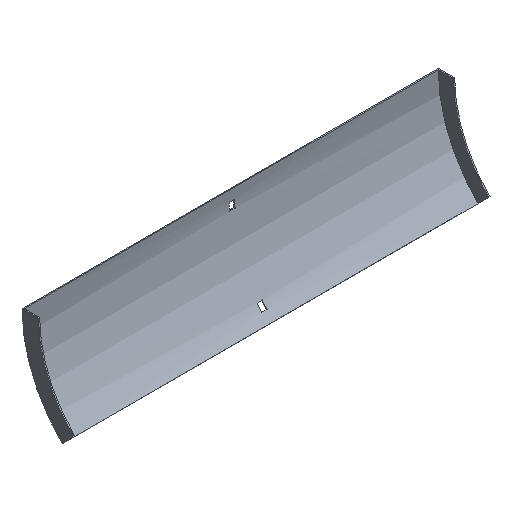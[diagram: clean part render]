
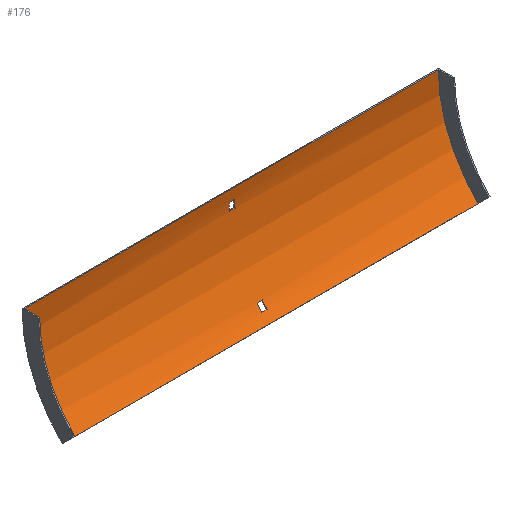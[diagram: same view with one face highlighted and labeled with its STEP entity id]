
A CAD part, isometric view. The second image highlights one B-rep face of the part: STEP entity #176.
In plain terms, the highlighted cylindrical face has radius 165.5 mm (diameter 331 mm), a partial arc.
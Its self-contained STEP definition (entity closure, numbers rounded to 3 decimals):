
#3 = DIRECTION ( 'NONE',  ( 1., 0., 0. ) ) ;
#5 = CARTESIAN_POINT ( 'NONE',  ( 3.25, -41.797, -108.233 ) ) ;
#16 = CARTESIAN_POINT ( 'NONE',  ( -252., -49.974, -117.026 ) ) ;
#29 = DIRECTION ( 'NONE',  ( -1., 0., 0. ) ) ;
#33 = AXIS2_PLACEMENT_3D ( 'NONE', #188, #519, #92 ) ;
#35 = EDGE_LOOP ( 'NONE', ( #363, #336, #37, #184 ) ) ;
#37 = ORIENTED_EDGE ( 'NONE', *, *, #406, .F. ) ;
#38 = EDGE_CURVE ( 'NONE', #319, #559, #348, .T. ) ;
#39 = LINE ( 'NONE', #274, #159 ) ;
#40 = CARTESIAN_POINT ( 'NONE',  ( -3.25, -2.838, -21. ) ) ;
#41 = ORIENTED_EDGE ( 'NONE', *, *, #568, .T. ) ;
#58 = EDGE_LOOP ( 'NONE', ( #220, #281, #398, #62 ) ) ;
#59 = EDGE_CURVE ( 'NONE', #395, #293, #39, .T. ) ;
#62 = ORIENTED_EDGE ( 'NONE', *, *, #429, .T. ) ;
#74 = AXIS2_PLACEMENT_3D ( 'NONE', #327, #572, #201 ) ;
#75 = DIRECTION ( 'NONE',  ( 0., 0., 1. ) ) ;
#80 = CIRCLE ( 'NONE', #121, 165.5 ) ;
#85 = DIRECTION ( 'NONE',  ( -1., 0., 0. ) ) ;
#88 = EDGE_CURVE ( 'NONE', #438, #157, #189, .T. ) ;
#92 = DIRECTION ( 'NONE',  ( 0., 0., -1. ) ) ;
#106 = VECTOR ( 'NONE', #85, 1000. ) ;
#107 = VECTOR ( 'NONE', #339, 1000. ) ;
#108 = FACE_BOUND ( 'NONE', #35, .T. ) ;
#110 = DIRECTION ( 'NONE',  ( 1., 0., 0. ) ) ;
#114 = CARTESIAN_POINT ( 'NONE',  ( 3.25, -2.838, -21. ) ) ;
#121 = AXIS2_PLACEMENT_3D ( 'NONE', #540, #493, #75 ) ;
#130 = CARTESIAN_POINT ( 'NONE',  ( -3.25, -167., 0. ) ) ;
#138 = CARTESIAN_POINT ( 'NONE',  ( 252., -49.974, -117.026 ) ) ;
#140 = VERTEX_POINT ( 'NONE', #534 ) ;
#144 = DIRECTION ( 'NONE',  ( -1., 0., 0. ) ) ;
#148 = LINE ( 'NONE', #332, #551 ) ;
#157 = VERTEX_POINT ( 'NONE', #16 ) ;
#159 = VECTOR ( 'NONE', #3, 1000. ) ;
#160 = CIRCLE ( 'NONE', #231, 165.5 ) ;
#163 = VERTEX_POINT ( 'NONE', #248 ) ;
#167 = EDGE_CURVE ( 'NONE', #293, #319, #326, .T. ) ;
#173 = VERTEX_POINT ( 'NONE', #473 ) ;
#176 = ADVANCED_FACE ( 'NONE', ( #108, #205, #524 ), #285, .F. ) ;
#180 = CARTESIAN_POINT ( 'NONE',  ( -3.25, -36.071, -101.231 ) ) ;
#183 = DIRECTION ( 'NONE',  ( 0., 0., 1. ) ) ;
#184 = ORIENTED_EDGE ( 'NONE', *, *, #415, .F. ) ;
#187 = CIRCLE ( 'NONE', #33, 165.5 ) ;
#188 = CARTESIAN_POINT ( 'NONE',  ( 3.25, -167., 0. ) ) ;
#189 = LINE ( 'NONE', #138, #106 ) ;
#197 = EDGE_LOOP ( 'NONE', ( #539, #41, #299, #311 ) ) ;
#201 = DIRECTION ( 'NONE',  ( 0., 0., 1. ) ) ;
#205 = FACE_OUTER_BOUND ( 'NONE', #58, .T. ) ;
#210 = LINE ( 'NONE', #432, #107 ) ;
#214 = CARTESIAN_POINT ( 'NONE',  ( 3.25, -36.071, -101.231 ) ) ;
#220 = ORIENTED_EDGE ( 'NONE', *, *, #448, .F. ) ;
#231 = AXIS2_PLACEMENT_3D ( 'NONE', #387, #110, #238 ) ;
#238 = DIRECTION ( 'NONE',  ( 0., 0., 1. ) ) ;
#248 = CARTESIAN_POINT ( 'NONE',  ( -3.25, -1.936, -12. ) ) ;
#262 = CARTESIAN_POINT ( 'NONE',  ( -3.25, -167., 0. ) ) ;
#273 = EDGE_CURVE ( 'NONE', #438, #173, #80, .T. ) ;
#274 = CARTESIAN_POINT ( 'NONE',  ( 253.5, -36.071, -101.231 ) ) ;
#281 = ORIENTED_EDGE ( 'NONE', *, *, #88, .F. ) ;
#285 = CYLINDRICAL_SURFACE ( 'NONE', #514, 165.5 ) ;
#286 = LINE ( 'NONE', #570, #388 ) ;
#293 = VERTEX_POINT ( 'NONE', #214 ) ;
#299 = ORIENTED_EDGE ( 'NONE', *, *, #59, .T. ) ;
#302 = DIRECTION ( 'NONE',  ( 1., 0., 0. ) ) ;
#305 = CIRCLE ( 'NONE', #600, 165.5 ) ;
#311 = ORIENTED_EDGE ( 'NONE', *, *, #167, .T. ) ;
#319 = VERTEX_POINT ( 'NONE', #5 ) ;
#326 = CIRCLE ( 'NONE', #74, 165.5 ) ;
#327 = CARTESIAN_POINT ( 'NONE',  ( 3.25, -167., 0. ) ) ;
#332 = CARTESIAN_POINT ( 'NONE',  ( 253.5, -1.936, -12. ) ) ;
#336 = ORIENTED_EDGE ( 'NONE', *, *, #547, .F. ) ;
#339 = DIRECTION ( 'NONE',  ( 1., 0., 0. ) ) ;
#344 = EDGE_CURVE ( 'NONE', #163, #389, #453, .T. ) ;
#348 = LINE ( 'NONE', #594, #356 ) ;
#351 = CARTESIAN_POINT ( 'NONE',  ( -3.25, -41.797, -108.233 ) ) ;
#356 = VECTOR ( 'NONE', #29, 1000. ) ;
#361 = DIRECTION ( 'NONE',  ( -1., 0., 0. ) ) ;
#363 = ORIENTED_EDGE ( 'NONE', *, *, #344, .F. ) ;
#382 = DIRECTION ( 'NONE',  ( -1., 0., 0. ) ) ;
#387 = CARTESIAN_POINT ( 'NONE',  ( -252., -167., 0. ) ) ;
#388 = VECTOR ( 'NONE', #144, 1000. ) ;
#389 = VERTEX_POINT ( 'NONE', #40 ) ;
#394 = DIRECTION ( 'NONE',  ( 0., 0., -1. ) ) ;
#395 = VERTEX_POINT ( 'NONE', #180 ) ;
#398 = ORIENTED_EDGE ( 'NONE', *, *, #273, .T. ) ;
#406 = EDGE_CURVE ( 'NONE', #520, #549, #187, .T. ) ;
#415 = EDGE_CURVE ( 'NONE', #389, #520, #210, .T. ) ;
#429 = EDGE_CURVE ( 'NONE', #173, #140, #286, .T. ) ;
#432 = CARTESIAN_POINT ( 'NONE',  ( 253.5, -2.838, -21. ) ) ;
#438 = VERTEX_POINT ( 'NONE', #530 ) ;
#448 = EDGE_CURVE ( 'NONE', #157, #140, #160, .T. ) ;
#453 = CIRCLE ( 'NONE', #460, 165.5 ) ;
#460 = AXIS2_PLACEMENT_3D ( 'NONE', #130, #361, #183 ) ;
#473 = CARTESIAN_POINT ( 'NONE',  ( 252., -1.5, 0. ) ) ;
#487 = CARTESIAN_POINT ( 'NONE',  ( 253.5, -167., 0. ) ) ;
#493 = DIRECTION ( 'NONE',  ( 1., 0., 0. ) ) ;
#514 = AXIS2_PLACEMENT_3D ( 'NONE', #487, #382, #578 ) ;
#519 = DIRECTION ( 'NONE',  ( 1., 0., 0. ) ) ;
#520 = VERTEX_POINT ( 'NONE', #114 ) ;
#524 = FACE_BOUND ( 'NONE', #197, .T. ) ;
#528 = DIRECTION ( 'NONE',  ( -1., 0., 0. ) ) ;
#530 = CARTESIAN_POINT ( 'NONE',  ( 252., -49.974, -117.026 ) ) ;
#534 = CARTESIAN_POINT ( 'NONE',  ( -252., -1.5, 0. ) ) ;
#539 = ORIENTED_EDGE ( 'NONE', *, *, #38, .T. ) ;
#540 = CARTESIAN_POINT ( 'NONE',  ( 252., -167., 0. ) ) ;
#547 = EDGE_CURVE ( 'NONE', #549, #163, #148, .T. ) ;
#549 = VERTEX_POINT ( 'NONE', #593 ) ;
#551 = VECTOR ( 'NONE', #528, 1000. ) ;
#559 = VERTEX_POINT ( 'NONE', #351 ) ;
#568 = EDGE_CURVE ( 'NONE', #559, #395, #305, .T. ) ;
#570 = CARTESIAN_POINT ( 'NONE',  ( 252., -1.5, 0. ) ) ;
#572 = DIRECTION ( 'NONE',  ( -1., 0., 0. ) ) ;
#578 = DIRECTION ( 'NONE',  ( 0., 0., 1. ) ) ;
#593 = CARTESIAN_POINT ( 'NONE',  ( 3.25, -1.936, -12. ) ) ;
#594 = CARTESIAN_POINT ( 'NONE',  ( 253.5, -41.797, -108.233 ) ) ;
#600 = AXIS2_PLACEMENT_3D ( 'NONE', #262, #302, #394 ) ;
